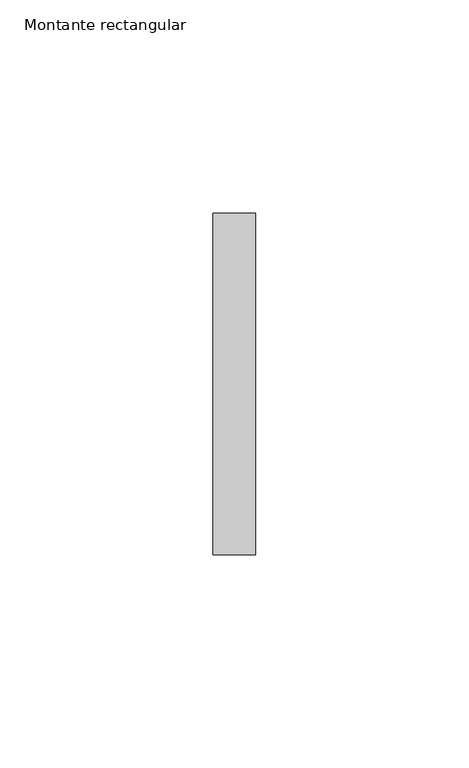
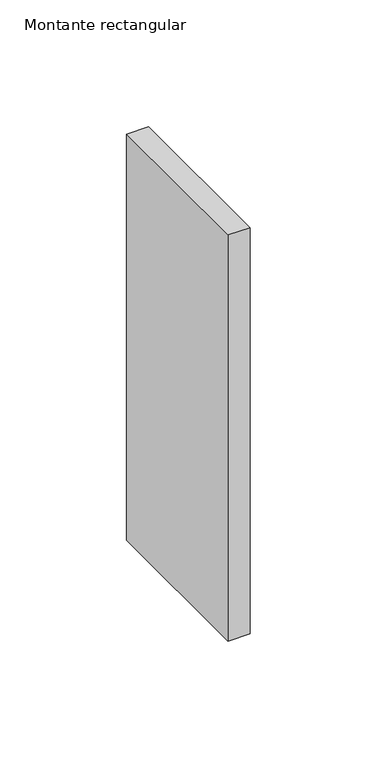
"""IFC4 building model written with IfcOpenShell, lengths in millimetres: member geometry, Montante rectangular : Junta de paves."""

from ifc_helpers import new_model, si_unit, frame, origin, place, context, project, spatial, polyline, outline, extrude, source, transform, mapped, element, save


def montante_rectangular_18b8adfa(model_context):
    return source(origin(), model_context, "Body", "SweptSolid", [
        extrude(outline(polyline([(5.0, 40.0), (5.0, -40.0), (-5.0, -40.0), (-5.0, 40.0), (5.0, 40.0)])), frame((0.0, 0.0, -195.5555556), z_axis=(0.0, 0.0, 1.0), x_axis=(1.0, 0.0, 0.0)), (0.0, 0.0, 1.0), 195.5555556),
    ])


if __name__ == "__main__":
    model = new_model("IFC4")
    model_context = context("Model", 3, world=origin())
    ifc_project = project(units=[si_unit("LENGTHUNIT", "METRE", prefix="MILLI")], contexts=[model_context])
    site = spatial("IfcSite", under=ifc_project)
    building = spatial("IfcBuilding", under=site)
    placement = place(None, origin())
    montante_rectangular_shape = montante_rectangular_18b8adfa(model_context)
    element("IfcMember", 1, ObjectType="Montante rectangular : Junta de paves", at=placement, inside=building, context=model_context, shape_type="MappedRepresentation", body=[
        mapped(montante_rectangular_shape, transform((0.0, 0.0, 0.0), x_axis=(1.0, 0.0, 0.0), y_axis=(0.0, 1.0, 0.0), z_axis=(0.0, 0.0, 1.0))),
    ])
    save(model, "model.ifc")
